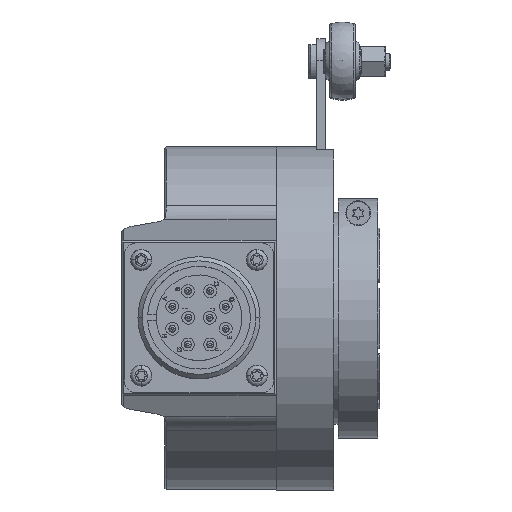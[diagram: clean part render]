
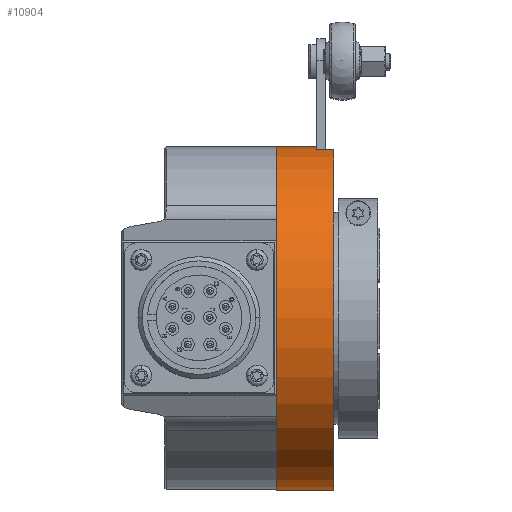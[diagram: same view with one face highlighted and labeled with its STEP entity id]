
A CAD part, top view. The second image highlights one B-rep face of the part: STEP entity #10904.
In plain terms, the highlighted cylindrical face has radius 40.075 mm (diameter 80.15 mm), a partial arc.
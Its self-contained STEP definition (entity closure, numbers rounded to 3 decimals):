
#510 = ORIENTED_EDGE ( 'NONE', *, *, #29569, .F. ) ;
#746 = VERTEX_POINT ( 'NONE', #992 ) ;
#992 = CARTESIAN_POINT ( 'NONE',  ( 0., -40.075, 0. ) ) ;
#997 = CARTESIAN_POINT ( 'NONE',  ( -12.775, 39.468, 6.95 ) ) ;
#1744 = AXIS2_PLACEMENT_3D ( 'NONE', #2104, #17880, #29825 ) ;
#2092 = CARTESIAN_POINT ( 'NONE',  ( 0., 40.075, 0. ) ) ;
#2104 = CARTESIAN_POINT ( 'NONE',  ( 9.5, 0., 0. ) ) ;
#2623 = DIRECTION ( 'NONE',  ( -1., 0., 0. ) ) ;
#2836 = CARTESIAN_POINT ( 'NONE',  ( -12.775, 40.075, 0. ) ) ;
#3388 = VERTEX_POINT ( 'NONE', #21740 ) ;
#3942 = ORIENTED_EDGE ( 'NONE', *, *, #19591, .T. ) ;
#4059 = VECTOR ( 'NONE', #12495, 1000. ) ;
#5070 = DIRECTION ( 'NONE',  ( -1., 0., 0. ) ) ;
#6057 = VERTEX_POINT ( 'NONE', #17887 ) ;
#6139 = DIRECTION ( 'NONE',  ( -1., 0., 0. ) ) ;
#7203 = VECTOR ( 'NONE', #24956, 1000. ) ;
#7562 = VECTOR ( 'NONE', #12270, 1000. ) ;
#8153 = ORIENTED_EDGE ( 'NONE', *, *, #26834, .T. ) ;
#9486 = LINE ( 'NONE', #2836, #7562 ) ;
#9958 = EDGE_CURVE ( 'NONE', #22872, #746, #14802, .T. ) ;
#10904 = ADVANCED_FACE ( 'NONE', ( #14209 ), #14049, .T. ) ;
#10931 = DIRECTION ( 'NONE',  ( 0., 1., 0. ) ) ;
#11078 = AXIS2_PLACEMENT_3D ( 'NONE', #19291, #5070, #12789 ) ;
#11406 = ORIENTED_EDGE ( 'NONE', *, *, #17750, .T. ) ;
#12270 = DIRECTION ( 'NONE',  ( -1., 0., 0. ) ) ;
#12495 = DIRECTION ( 'NONE',  ( -1., 0., 0. ) ) ;
#12789 = DIRECTION ( 'NONE',  ( 0., 1., 0. ) ) ;
#13065 = CIRCLE ( 'NONE', #17497, 40.075 ) ;
#14049 = CYLINDRICAL_SURFACE ( 'NONE', #26994, 40.075 ) ;
#14209 = FACE_OUTER_BOUND ( 'NONE', #22286, .T. ) ;
#14363 = DIRECTION ( 'NONE',  ( 0., 1., 0. ) ) ;
#14649 = VERTEX_POINT ( 'NONE', #2092 ) ;
#14802 = LINE ( 'NONE', #19307, #4059 ) ;
#14906 = ORIENTED_EDGE ( 'NONE', *, *, #20697, .T. ) ;
#15257 = VERTEX_POINT ( 'NONE', #29133 ) ;
#16028 = CARTESIAN_POINT ( 'NONE',  ( 0., 0., 0. ) ) ;
#16533 = CIRCLE ( 'NONE', #1744, 40.075 ) ;
#16821 = ORIENTED_EDGE ( 'NONE', *, *, #9958, .F. ) ;
#17497 = AXIS2_PLACEMENT_3D ( 'NONE', #16028, #6139, #10931 ) ;
#17750 = EDGE_CURVE ( 'NONE', #15257, #14649, #9486, .T. ) ;
#17880 = DIRECTION ( 'NONE',  ( -1., 0., 0. ) ) ;
#17887 = CARTESIAN_POINT ( 'NONE',  ( 13.5, 39.468, 6.95 ) ) ;
#19291 = CARTESIAN_POINT ( 'NONE',  ( 13.5, 0., 0. ) ) ;
#19307 = CARTESIAN_POINT ( 'NONE',  ( -12.775, -40.075, 0. ) ) ;
#19591 = EDGE_CURVE ( 'NONE', #6057, #3388, #29931, .T. ) ;
#20697 = EDGE_CURVE ( 'NONE', #3388, #15257, #16533, .T. ) ;
#21179 = CARTESIAN_POINT ( 'NONE',  ( -12.775, 0., 0. ) ) ;
#21740 = CARTESIAN_POINT ( 'NONE',  ( 9.5, 39.468, 6.95 ) ) ;
#22286 = EDGE_LOOP ( 'NONE', ( #16821, #8153, #3942, #14906, #11406, #510 ) ) ;
#22872 = VERTEX_POINT ( 'NONE', #26949 ) ;
#24424 = CIRCLE ( 'NONE', #11078, 40.075 ) ;
#24956 = DIRECTION ( 'NONE',  ( -1., 0., 0. ) ) ;
#26834 = EDGE_CURVE ( 'NONE', #22872, #6057, #24424, .T. ) ;
#26949 = CARTESIAN_POINT ( 'NONE',  ( 13.5, -40.075, 0. ) ) ;
#26994 = AXIS2_PLACEMENT_3D ( 'NONE', #21179, #2623, #14363 ) ;
#29133 = CARTESIAN_POINT ( 'NONE',  ( 9.5, 40.075, 0. ) ) ;
#29569 = EDGE_CURVE ( 'NONE', #746, #14649, #13065, .T. ) ;
#29825 = DIRECTION ( 'NONE',  ( 0., 1., 0. ) ) ;
#29931 = LINE ( 'NONE', #997, #7203 ) ;
